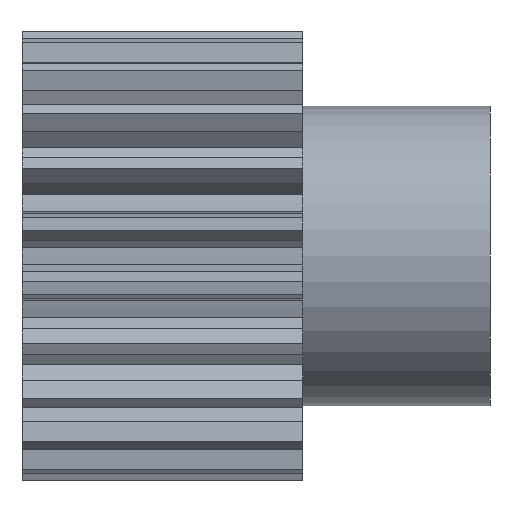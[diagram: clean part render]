
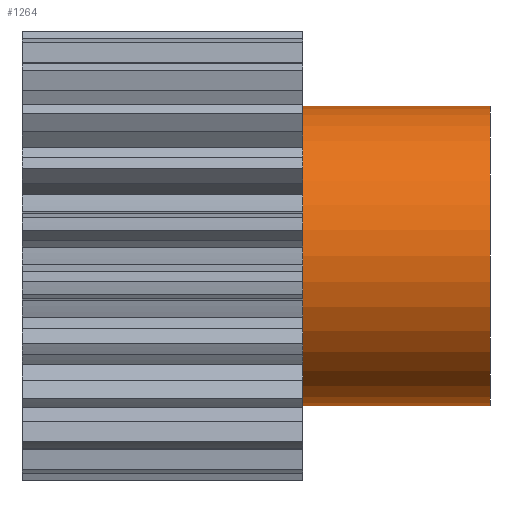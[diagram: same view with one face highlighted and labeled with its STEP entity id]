
A CAD part, front view. The second image highlights one B-rep face of the part: STEP entity #1264.
In plain terms, the highlighted cylindrical face has radius 8 mm (diameter 16 mm), a partial arc.
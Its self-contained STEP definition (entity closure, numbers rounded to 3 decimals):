
#32 = VERTEX_POINT ( 'NONE', #1797 ) ;
#48 = VERTEX_POINT ( 'NONE', #1827 ) ;
#70 = EDGE_CURVE ( 'NONE', #48, #487, #1824, .T. ) ;
#487 = VERTEX_POINT ( 'NONE', #2663 ) ;
#490 = ORIENTED_EDGE ( 'NONE', *, *, #70, .F. ) ;
#905 = EDGE_CURVE ( 'NONE', #1507, #487, #3070, .T. ) ;
#973 = EDGE_CURVE ( 'NONE', #48, #32, #3254, .T. ) ;
#1231 = ORIENTED_EDGE ( 'NONE', *, *, #973, .T. ) ;
#1238 = EDGE_LOOP ( 'NONE', ( #490, #1231, #1261, #1257 ) ) ;
#1257 = ORIENTED_EDGE ( 'NONE', *, *, #905, .T. ) ;
#1261 = ORIENTED_EDGE ( 'NONE', *, *, #1510, .T. ) ;
#1264 = ADVANCED_FACE ( 'NONE', ( #3649 ), #3653, .T. ) ;
#1507 = VERTEX_POINT ( 'NONE', #4089 ) ;
#1510 = EDGE_CURVE ( 'NONE', #32, #1507, #4082, .T. ) ;
#1797 = CARTESIAN_POINT ( 'NONE',  ( 17.5, 0., 8. ) ) ;
#1824 = LINE ( 'NONE', #1852, #1900 ) ;
#1827 = CARTESIAN_POINT ( 'NONE',  ( 17.5, 0., -8. ) ) ;
#1852 = CARTESIAN_POINT ( 'NONE',  ( 7.5, 0., -8. ) ) ;
#1899 = DIRECTION ( 'NONE',  ( -1., 0., 0. ) ) ;
#1900 = VECTOR ( 'NONE', #1899, 1000. ) ;
#2663 = CARTESIAN_POINT ( 'NONE',  ( 7.5, 0., -8. ) ) ;
#3068 = AXIS2_PLACEMENT_3D ( 'NONE', #3124, #3123, #3122 ) ;
#3070 = CIRCLE ( 'NONE', #3068, 8. ) ;
#3122 = DIRECTION ( 'NONE',  ( 0., 0., 1. ) ) ;
#3123 = DIRECTION ( 'NONE',  ( 1., 0., 0. ) ) ;
#3124 = CARTESIAN_POINT ( 'NONE',  ( 7.5, 0., 0. ) ) ;
#3201 = AXIS2_PLACEMENT_3D ( 'NONE', #3249, #3243, #3242 ) ;
#3242 = DIRECTION ( 'NONE',  ( 0., 0., 1. ) ) ;
#3243 = DIRECTION ( 'NONE',  ( -1., 0., 0. ) ) ;
#3249 = CARTESIAN_POINT ( 'NONE',  ( 17.5, 0., 0. ) ) ;
#3254 = CIRCLE ( 'NONE', #3201, 8. ) ;
#3602 = AXIS2_PLACEMENT_3D ( 'NONE', #3647, #3646, #3643 ) ;
#3643 = DIRECTION ( 'NONE',  ( 0., 0., 1. ) ) ;
#3646 = DIRECTION ( 'NONE',  ( -1., 0., 0. ) ) ;
#3647 = CARTESIAN_POINT ( 'NONE',  ( 7.5, 0., 0. ) ) ;
#3649 = FACE_OUTER_BOUND ( 'NONE', #1238, .T. ) ;
#3653 = CYLINDRICAL_SURFACE ( 'NONE', #3602, 8. ) ;
#4071 = DIRECTION ( 'NONE',  ( -1., 0., 0. ) ) ;
#4072 = VECTOR ( 'NONE', #4071, 1000. ) ;
#4081 = CARTESIAN_POINT ( 'NONE',  ( 7.5, 0., 8. ) ) ;
#4082 = LINE ( 'NONE', #4081, #4072 ) ;
#4089 = CARTESIAN_POINT ( 'NONE',  ( 7.5, 0., 8. ) ) ;
